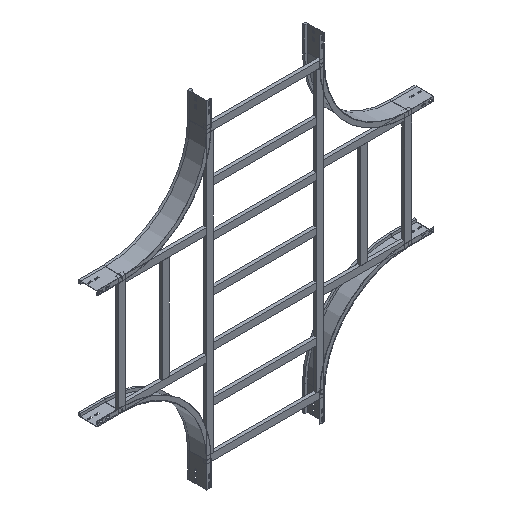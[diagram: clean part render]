
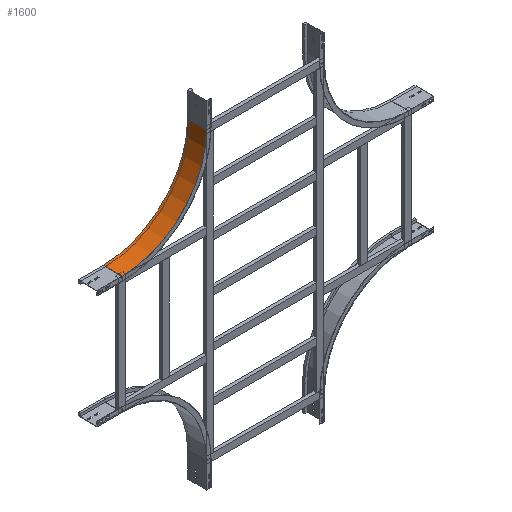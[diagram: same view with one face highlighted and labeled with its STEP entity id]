
A CAD part, isometric view. The second image highlights one B-rep face of the part: STEP entity #1600.
In plain terms, the highlighted cylindrical face has radius 500 mm (diameter 1000 mm), a partial arc.
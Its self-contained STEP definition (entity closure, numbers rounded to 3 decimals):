
#6 = DIRECTION ( 'NONE',  ( 0., 1., 0. ) ) ;
#23 = LINE ( 'NONE', #489, #1324 ) ;
#33 = CIRCLE ( 'NONE', #1068, 500. ) ;
#47 = CARTESIAN_POINT ( 'NONE',  ( 500., 0., -650. ) ) ;
#65 = DIRECTION ( 'NONE',  ( 0., -1., 0. ) ) ;
#93 = CYLINDRICAL_SURFACE ( 'NONE', #1964, 500. ) ;
#161 = DIRECTION ( 'NONE',  ( -1., 0., 0. ) ) ;
#172 = ORIENTED_EDGE ( 'NONE', *, *, #468, .F. ) ;
#252 = VERTEX_POINT ( 'NONE', #2056 ) ;
#264 = EDGE_CURVE ( 'NONE', #1291, #1698, #23, .T. ) ;
#349 = DIRECTION ( 'NONE',  ( 0., -1., 0. ) ) ;
#468 = EDGE_CURVE ( 'NONE', #1698, #252, #33, .T. ) ;
#476 = CIRCLE ( 'NONE', #2898, 500. ) ;
#489 = CARTESIAN_POINT ( 'NONE',  ( 0., 0., -150. ) ) ;
#496 = EDGE_LOOP ( 'NONE', ( #172, #2548, #1226, #1883 ) ) ;
#546 = FACE_OUTER_BOUND ( 'NONE', #496, .T. ) ;
#590 = DIRECTION ( 'NONE',  ( 0., -1., 0. ) ) ;
#594 = VECTOR ( 'NONE', #1437, 1000. ) ;
#790 = DIRECTION ( 'NONE',  ( -1., 0., 0. ) ) ;
#1005 = CARTESIAN_POINT ( 'NONE',  ( 500., 0., -150. ) ) ;
#1018 = CARTESIAN_POINT ( 'NONE',  ( 500., 0., -650. ) ) ;
#1068 = AXIS2_PLACEMENT_3D ( 'NONE', #1718, #590, #161 ) ;
#1226 = ORIENTED_EDGE ( 'NONE', *, *, #2045, .T. ) ;
#1291 = VERTEX_POINT ( 'NONE', #1971 ) ;
#1324 = VECTOR ( 'NONE', #6, 1000. ) ;
#1437 = DIRECTION ( 'NONE',  ( 0., 1., 0. ) ) ;
#1586 = EDGE_CURVE ( 'NONE', #1978, #252, #1865, .T. ) ;
#1600 = ADVANCED_FACE ( 'NONE', ( #546 ), #93, .F. ) ;
#1698 = VERTEX_POINT ( 'NONE', #2853 ) ;
#1718 = CARTESIAN_POINT ( 'NONE',  ( 500., 112.5, -150. ) ) ;
#1865 = LINE ( 'NONE', #1018, #594 ) ;
#1883 = ORIENTED_EDGE ( 'NONE', *, *, #1586, .T. ) ;
#1964 = AXIS2_PLACEMENT_3D ( 'NONE', #1005, #65, #2367 ) ;
#1971 = CARTESIAN_POINT ( 'NONE',  ( 0., 0., -150. ) ) ;
#1978 = VERTEX_POINT ( 'NONE', #47 ) ;
#2045 = EDGE_CURVE ( 'NONE', #1291, #1978, #476, .T. ) ;
#2056 = CARTESIAN_POINT ( 'NONE',  ( 500., 112.5, -650. ) ) ;
#2367 = DIRECTION ( 'NONE',  ( 0., 0., -1. ) ) ;
#2548 = ORIENTED_EDGE ( 'NONE', *, *, #264, .F. ) ;
#2796 = CARTESIAN_POINT ( 'NONE',  ( 500., 0., -150. ) ) ;
#2853 = CARTESIAN_POINT ( 'NONE',  ( 0., 112.5, -150. ) ) ;
#2898 = AXIS2_PLACEMENT_3D ( 'NONE', #2796, #349, #790 ) ;
